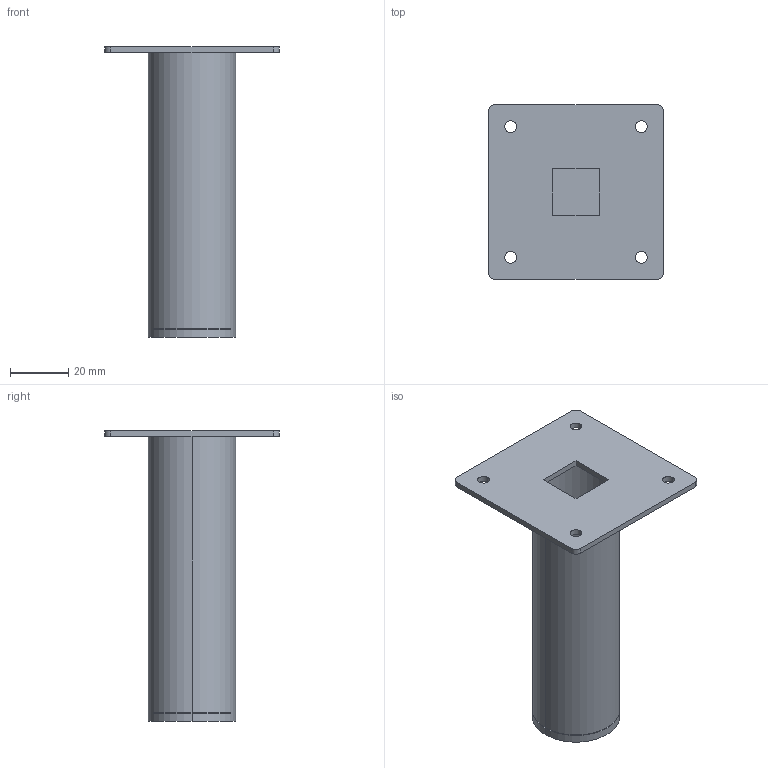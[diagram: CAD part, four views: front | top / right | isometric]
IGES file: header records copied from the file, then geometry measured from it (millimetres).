
Start section: Data from XPlus IGES,  Spatial Corp. Copyright (c) 1999-2004
Global section: file name: 16874.igs; native system:  By Spatial Corp.; preprocessor: XPlus ACIS/IGES 3.0; author: Noname; organization: Noname; date: 20140207.105307; units: millimetre
Bounding box: 60 x 60 x 100 mm (x, y, z)
Surface area: 26285.9 mm2 (no closed solid volume)
Topology: 0 solids, 0 shells, 35 faces, 168 edges, 168 vertices
Faces by surface type: revolution 20, extrusion 15
